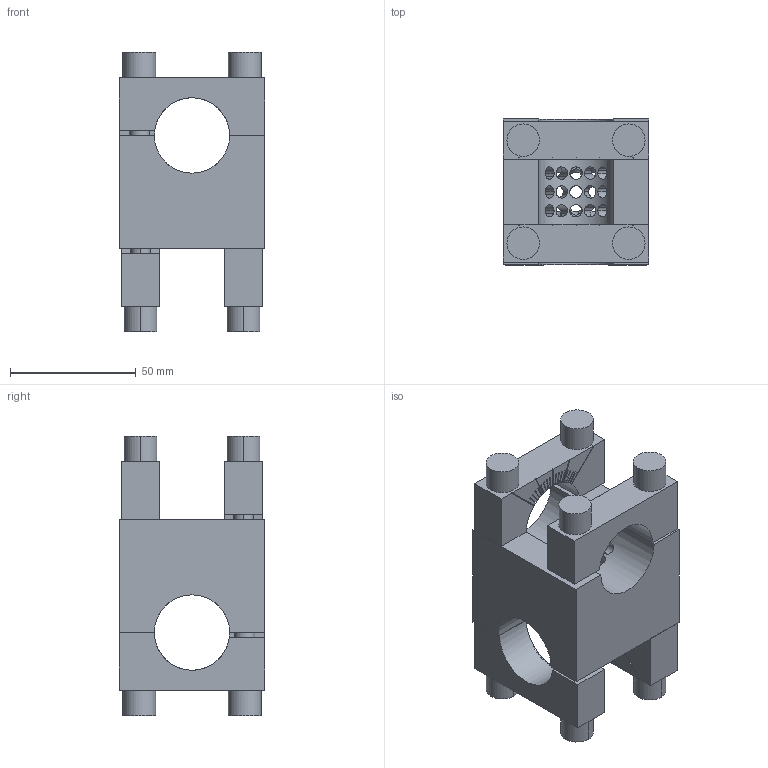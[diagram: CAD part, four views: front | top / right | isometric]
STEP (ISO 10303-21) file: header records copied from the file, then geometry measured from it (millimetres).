
FILE_DESCRIPTION(('STEP AP214'),'1');
FILE_NAME('EGT130_1705104_RD30-30-X90.CATPart.stp','2015-09-14T13:09:30',('3D-Tool'),(' '),'Spatial InterOp 3D',' ',' ');
FILE_SCHEMA(('automotive_design'));
Length unit declared in the file: millimetre
Products named in the file (13): EGT130_1705104_RD30-30-X90|EGT130_RD30-30-X90|Bohrbearbeitung; EGT130_1705104_RD30-30-X90|EGT205_SCHELLE_RD30_1|Assemble.57; EGT130_1705104_RD30-30-X90|EGT205_SCHELLE_RD30_2|Assemble.58; 1; 2; 3; 4; EGT130_1705104_RD30-30-X90|EGT205_SCHELLE_RD30_1|Assemble.51; EGT130_1705104_RD30-30-X90|EGT205_SCHELLE_RD30_2|Assemble.52; 5; 6; 7; 8
Bounding box: 58 x 58 x 111.2 mm (x, y, z)
Volume: 169305.1 mm3; surface area: 60616.4 mm2
Topology: 13 solids, 13 shells, 593 faces, 1587 edges, 1048 vertices
Faces by surface type: plane 348, cylinder 245
Entity records: 26444 total; most frequent: CARTESIAN_POINT 6876, ORIENTED_EDGE 3174, DIRECTION 2811, EDGE_CURVE 1587, VERTEX_POINT 1048, AXIS2_PLACEMENT_3D 996, LINE 819, VECTOR 819
